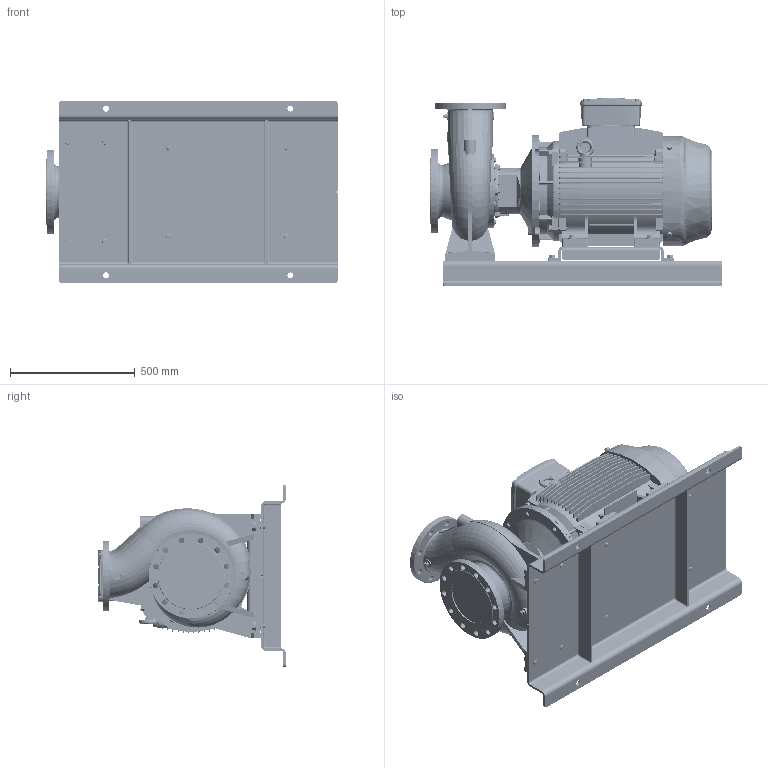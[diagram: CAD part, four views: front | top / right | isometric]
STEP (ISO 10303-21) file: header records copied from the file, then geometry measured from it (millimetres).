
FILE_DESCRIPTION (( 'STEP AP214' ), '1' );
FILE_NAME ('GSD2 150-200_45_(225SM)_W21_BP.STEP', '2024-04-24T05:04:58', ( '' ), ( '' ), 'SwSTEP 2.0', 'SolidWorks 2019', '' );
FILE_SCHEMA (( 'AUTOMOTIVE_DESIGN' ));
Length unit declared in the file: millimetre
Products named in the file (22): N9S4 GSDA-94D F1-1832972-00; Parametric bolt and washer_SFT-A403B; Parametric bolt and washer_SFT-A359B; Parametric bolt and washer_SFT-A351B; Parametric bolt_SFT-A351B; GSD2  150-200_45_(225SM)_W21_BP; Parametric Flat Washer_M16; Parametric Flat Washer_M20; 225S_M2P IE3_W21T_B35; Parametric bolt_SFT-A403B; 150-200-225S_M_______; Parametric bolt_SFT-A359B; CGS11-5282
Assembly tree (40 placements, depth 3):
  GSD2  150-200_45_(225SM)_W21_BP
    150-200-225S_M_______
    225S_M2P IE3_W21T_B35
    N9S4 GSDA-94D F1-1832972-00
    CGS11-5282
    Parametric bolt and washer_SFT-A403B
      Parametric bolt_SFT-A403B
      Parametric Flat Washer_M20
    Parametric bolt and washer_SFT-A403B
      Parametric bolt_SFT-A403B
      Parametric Flat Washer_M20
    Parametric bolt and washer_SFT-A403B
      Parametric bolt_SFT-A403B
      Parametric Flat Washer_M20
    Parametric bolt and washer_SFT-A403B
      Parametric bolt_SFT-A403B
      Parametric Flat Washer_M20
    Parametric bolt and washer_SFT-A351B
      Parametric bolt_SFT-A351B
      Parametric Flat Washer_M16
    Parametric bolt and washer_SFT-A351B
      Parametric bolt_SFT-A351B
      Parametric Flat Washer_M16
    Parametric bolt and washer_SFT-A351B
      Parametric bolt_SFT-A351B
      Parametric Flat Washer_M16
    Parametric bolt and washer_SFT-A351B
      Parametric bolt_SFT-A351B
      Parametric Flat Washer_M16
    Parametric bolt and washer_SFT-A359B
      Parametric bolt_SFT-A359B
      Parametric Flat Washer_M16
    Parametric bolt and washer_SFT-A359B
      Parametric bolt_SFT-A359B
      Parametric Flat Washer_M16
    Parametric bolt and washer_SFT-A359B
      Parametric bolt_SFT-A359B
      Parametric Flat Washer_M16
    Parametric bolt and washer_SFT-A359B
      Parametric bolt_SFT-A359B
      Parametric Flat Washer_M16
Bounding box: 1170 x 753 x 730 mm (x, y, z)
Volume: 154770744.2 mm3; surface area: 7376925.1 mm2
Topology: 37 solids, 42 shells, 4233 faces, 11140 edges, 7108 vertices
Faces by surface type: plane 1748, cylinder 1444, cone 482, torus 281, bspline 263, sphere 15
Entity records: 179091 total; most frequent: CARTESIAN_POINT 90044, ORIENTED_EDGE 19290, DIRECTION 17779, EDGE_CURVE 9645, AXIS2_PLACEMENT_3D 6488, VERTEX_POINT 6145, LINE 4803, VECTOR 4803
